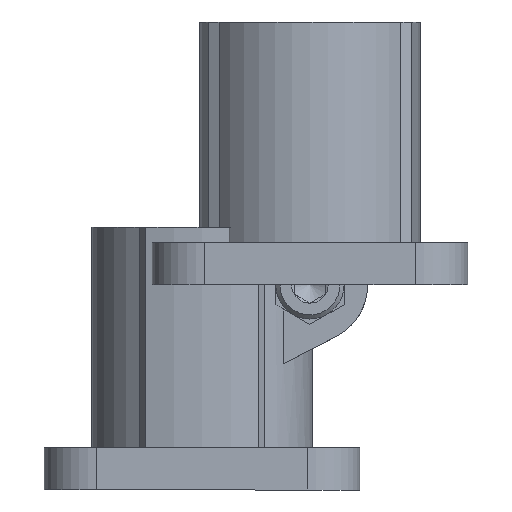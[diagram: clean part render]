
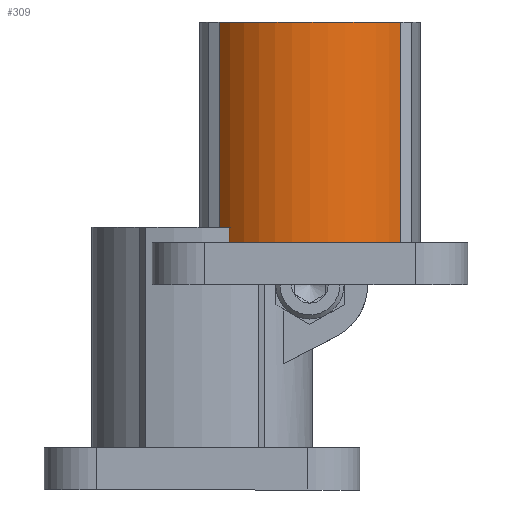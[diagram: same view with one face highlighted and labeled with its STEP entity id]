
A CAD part, left-side view. The second image highlights one B-rep face of the part: STEP entity #309.
In plain terms, the highlighted cylindrical face has radius 21 mm (diameter 42 mm), a partial arc.
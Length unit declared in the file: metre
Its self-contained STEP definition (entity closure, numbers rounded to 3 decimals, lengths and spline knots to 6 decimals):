
#309 = ADVANCED_FACE( '', ( #580 ), #581, .T. );
#580 = FACE_OUTER_BOUND( '', #799, .T. );
#581 = CYLINDRICAL_SURFACE( '', #800, 0.021 );
#799 = EDGE_LOOP( '', ( #1428, #1429, #1430, #1431 ) );
#800 = AXIS2_PLACEMENT_3D( '', #1432, #1433, #1434 );
#1428 = ORIENTED_EDGE( '', *, *, #1745, .T. );
#1429 = ORIENTED_EDGE( '', *, *, #1833, .F. );
#1430 = ORIENTED_EDGE( '', *, *, #1763, .F. );
#1431 = ORIENTED_EDGE( '', *, *, #1709, .T. );
#1432 = CARTESIAN_POINT( '', ( 0., 0., 0.05 ) );
#1433 = DIRECTION( '', ( 0., 0., 1. ) );
#1434 = DIRECTION( '', ( -1., 0., 0. ) );
#1709 = EDGE_CURVE( '', #1953, #1951, #1954, .T. );
#1745 = EDGE_CURVE( '', #1951, #2021, #2023, .T. );
#1763 = EDGE_CURVE( '', #1953, #2053, #2054, .T. );
#1833 = EDGE_CURVE( '', #2053, #2021, #2159, .T. );
#1951 = VERTEX_POINT( '', #2377 );
#1953 = VERTEX_POINT( '', #2380 );
#1954 = LINE( '', #2381, #2382 );
#2021 = VERTEX_POINT( '', #2467 );
#2023 = CIRCLE( '', #2470, 0.021 );
#2053 = VERTEX_POINT( '', #2509 );
#2054 = CIRCLE( '', #2510, 0.021 );
#2159 = LINE( '', #2678, #2679 );
#2377 = CARTESIAN_POINT( '', ( -0.01195, 0.017268, 0.008 ) );
#2380 = CARTESIAN_POINT( '', ( -0.01195, 0.017268, 0.05 ) );
#2381 = CARTESIAN_POINT( '', ( -0.01195, 0.017268, 0.05 ) );
#2382 = VECTOR( '', #2778, 1. );
#2467 = CARTESIAN_POINT( '', ( -0.01195, -0.017268, 0.008 ) );
#2470 = AXIS2_PLACEMENT_3D( '', #2846, #2847, #2848 );
#2509 = CARTESIAN_POINT( '', ( -0.01195, -0.017268, 0.05 ) );
#2510 = AXIS2_PLACEMENT_3D( '', #2882, #2883, #2884 );
#2678 = CARTESIAN_POINT( '', ( -0.01195, -0.017268, 0.05 ) );
#2679 = VECTOR( '', #2972, 1. );
#2778 = DIRECTION( '', ( 0., 0., -1. ) );
#2846 = CARTESIAN_POINT( '', ( 0., 0., 0.008 ) );
#2847 = DIRECTION( '', ( 0., 0., 1. ) );
#2848 = DIRECTION( '', ( 1., 0., 0. ) );
#2882 = CARTESIAN_POINT( '', ( 0., 0., 0.05 ) );
#2883 = DIRECTION( '', ( 0., 0., 1. ) );
#2884 = DIRECTION( '', ( 1., 0., 0. ) );
#2972 = DIRECTION( '', ( 0., 0., -1. ) );
